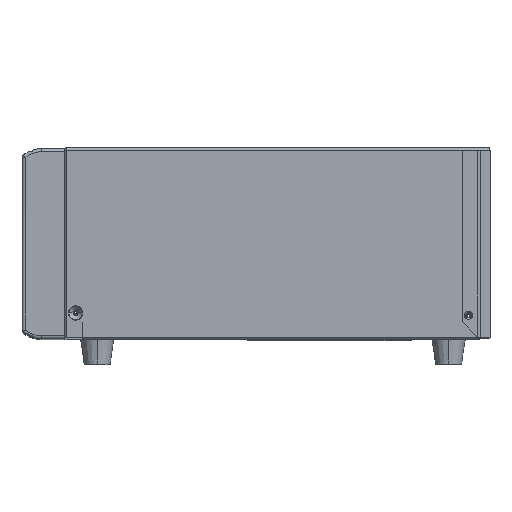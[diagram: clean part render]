
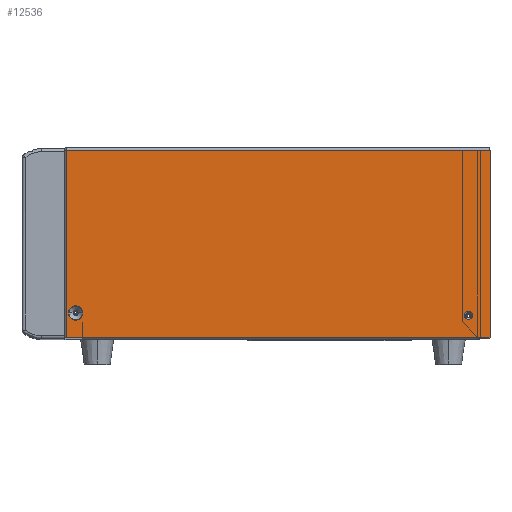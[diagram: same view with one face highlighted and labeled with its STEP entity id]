
A CAD part, top view. The second image highlights one B-rep face of the part: STEP entity #12536.
In plain terms, the highlighted planar face has unit normal (0, 0, 1).
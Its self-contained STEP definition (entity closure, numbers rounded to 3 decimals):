
#3112 = FACE_BOUND ( 'NONE', #19208, .T. ) ;
#4146 = VECTOR ( 'NONE', #83401, 1000. ) ;
#9658 = ORIENTED_EDGE ( 'NONE', *, *, #104009, .F. ) ;
#10392 = CARTESIAN_POINT ( 'NONE',  ( 72.583, -32.913, 419.5 ) ) ;
#10612 = DIRECTION ( 'NONE',  ( 0., 0., -1. ) ) ;
#12536 = ADVANCED_FACE ( 'NONE', ( #72387, #3112, #47355 ), #13808, .F. ) ;
#13808 = PLANE ( 'NONE',  #76256 ) ;
#15427 = AXIS2_PLACEMENT_3D ( 'NONE', #67052, #10612, #76501 ) ;
#17452 = CARTESIAN_POINT ( 'NONE',  ( 89.333, -47.413, 419.5 ) ) ;
#18121 = CARTESIAN_POINT ( 'NONE',  ( -180.667, -31.413, 419.5 ) ) ;
#19208 = EDGE_LOOP ( 'NONE', ( #121263, #97593 ) ) ;
#19857 = ORIENTED_EDGE ( 'NONE', *, *, #31899, .T. ) ;
#20625 = LINE ( 'NONE', #117864, #67780 ) ;
#22228 = VERTEX_POINT ( 'NONE', #26124 ) ;
#23124 = CIRCLE ( 'NONE', #44989, 2.75 ) ;
#23509 = EDGE_CURVE ( 'NONE', #29327, #22228, #20625, .T. ) ;
#24344 = VERTEX_POINT ( 'NONE', #98564 ) ;
#25074 = EDGE_CURVE ( 'NONE', #36250, #62243, #101169, .T. ) ;
#26124 = CARTESIAN_POINT ( 'NONE',  ( -186.667, -47.413, 419.5 ) ) ;
#27505 = DIRECTION ( 'NONE',  ( -1., 0., 0. ) ) ;
#27597 = DIRECTION ( 'NONE',  ( -1., 0., 0. ) ) ;
#27912 = CIRCLE ( 'NONE', #68231, 2.75 ) ;
#28161 = DIRECTION ( 'NONE',  ( 0., 0., -1. ) ) ;
#28297 = CARTESIAN_POINT ( 'NONE',  ( -175.967, -31.413, 419.5 ) ) ;
#29327 = VERTEX_POINT ( 'NONE', #62277 ) ;
#29871 = EDGE_CURVE ( 'NONE', #24344, #29327, #57967, .T. ) ;
#31789 = EDGE_LOOP ( 'NONE', ( #71826, #19857 ) ) ;
#31899 = EDGE_CURVE ( 'NONE', #62243, #36250, #54479, .T. ) ;
#32855 = VECTOR ( 'NONE', #27505, 1000. ) ;
#34317 = DIRECTION ( 'NONE',  ( 0., 0., -1. ) ) ;
#35772 = EDGE_CURVE ( 'NONE', #106749, #108148, #27912, .T. ) ;
#36250 = VERTEX_POINT ( 'NONE', #28297 ) ;
#44989 = AXIS2_PLACEMENT_3D ( 'NONE', #84626, #28161, #94050 ) ;
#47355 = FACE_OUTER_BOUND ( 'NONE', #62440, .T. ) ;
#48930 = DIRECTION ( 'NONE',  ( 0., 0., -1. ) ) ;
#51890 = DIRECTION ( 'NONE',  ( 0., -1., 0. ) ) ;
#54285 = LINE ( 'NONE', #17452, #4146 ) ;
#54479 = CIRCLE ( 'NONE', #122201, 4.7 ) ;
#55149 = VERTEX_POINT ( 'NONE', #105047 ) ;
#55441 = CARTESIAN_POINT ( 'NONE',  ( -185.367, -31.413, 419.5 ) ) ;
#56419 = CARTESIAN_POINT ( 'NONE',  ( 78.083, -32.913, 419.5 ) ) ;
#57967 = LINE ( 'NONE', #93440, #32855 ) ;
#58392 = CARTESIAN_POINT ( 'NONE',  ( -187.667, 76.587, 419.5 ) ) ;
#60547 = CARTESIAN_POINT ( 'NONE',  ( 89.333, 76.587, 419.5 ) ) ;
#62243 = VERTEX_POINT ( 'NONE', #55441 ) ;
#62277 = CARTESIAN_POINT ( 'NONE',  ( -186.667, 74.587, 419.5 ) ) ;
#62440 = EDGE_LOOP ( 'NONE', ( #85935, #122405, #62580, #9658 ) ) ;
#62580 = ORIENTED_EDGE ( 'NONE', *, *, #103161, .F. ) ;
#64250 = LINE ( 'NONE', #60547, #111439 ) ;
#67052 = CARTESIAN_POINT ( 'NONE',  ( -180.667, -31.413, 419.5 ) ) ;
#67780 = VECTOR ( 'NONE', #51890, 1000. ) ;
#68231 = AXIS2_PLACEMENT_3D ( 'NONE', #90756, #34317, #100287 ) ;
#70029 = DIRECTION ( 'NONE',  ( 0., -1., 0. ) ) ;
#71826 = ORIENTED_EDGE ( 'NONE', *, *, #25074, .T. ) ;
#72387 = FACE_BOUND ( 'NONE', #31789, .T. ) ;
#76256 = AXIS2_PLACEMENT_3D ( 'NONE', #58392, #48930, #95872 ) ;
#76501 = DIRECTION ( 'NONE',  ( -1., 0., 0. ) ) ;
#76745 = EDGE_CURVE ( 'NONE', #108148, #106749, #23124, .T. ) ;
#83401 = DIRECTION ( 'NONE',  ( -1., 0., 0. ) ) ;
#84068 = DIRECTION ( 'NONE',  ( 0., 0., -1. ) ) ;
#84626 = CARTESIAN_POINT ( 'NONE',  ( 75.333, -32.913, 419.5 ) ) ;
#85935 = ORIENTED_EDGE ( 'NONE', *, *, #29871, .T. ) ;
#90756 = CARTESIAN_POINT ( 'NONE',  ( 75.333, -32.913, 419.5 ) ) ;
#93440 = CARTESIAN_POINT ( 'NONE',  ( -187.667, 74.587, 419.5 ) ) ;
#94050 = DIRECTION ( 'NONE',  ( -1., 0., 0. ) ) ;
#95872 = DIRECTION ( 'NONE',  ( -1., 0., 0. ) ) ;
#97593 = ORIENTED_EDGE ( 'NONE', *, *, #35772, .T. ) ;
#98564 = CARTESIAN_POINT ( 'NONE',  ( 89.333, 74.587, 419.5 ) ) ;
#100287 = DIRECTION ( 'NONE',  ( -1., 0., 0. ) ) ;
#101169 = CIRCLE ( 'NONE', #15427, 4.7 ) ;
#103161 = EDGE_CURVE ( 'NONE', #55149, #22228, #54285, .T. ) ;
#104009 = EDGE_CURVE ( 'NONE', #24344, #55149, #64250, .T. ) ;
#105047 = CARTESIAN_POINT ( 'NONE',  ( 89.333, -47.413, 419.5 ) ) ;
#106749 = VERTEX_POINT ( 'NONE', #10392 ) ;
#108148 = VERTEX_POINT ( 'NONE', #56419 ) ;
#111439 = VECTOR ( 'NONE', #70029, 1000. ) ;
#117864 = CARTESIAN_POINT ( 'NONE',  ( -186.667, 76.587, 419.5 ) ) ;
#121263 = ORIENTED_EDGE ( 'NONE', *, *, #76745, .T. ) ;
#122201 = AXIS2_PLACEMENT_3D ( 'NONE', #18121, #84068, #27597 ) ;
#122405 = ORIENTED_EDGE ( 'NONE', *, *, #23509, .T. ) ;
